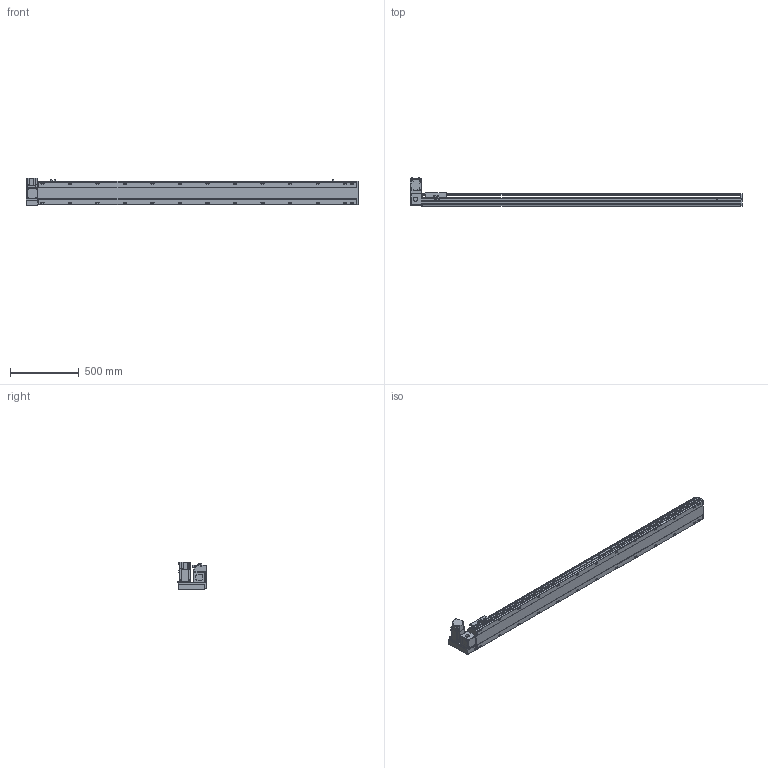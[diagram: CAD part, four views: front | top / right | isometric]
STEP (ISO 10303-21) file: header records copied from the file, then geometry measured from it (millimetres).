
FILE_DESCRIPTION( ( 'STEP AP214' ), '1' );
FILE_NAME( 'x:/temp/worker_4/temp/exporttempdir_2248_412_LlBEn/format_0/PBS170-P40-S2050-LU-T75-C1-N(0).stp', '2022-06-07T08:16:52', ( 'License CC BY-ND 4.0' ), ( 'CADENAS' ), ' ', 'PARTsolutions', ' ' );
FILE_SCHEMA( ( 'AUTOMOTIVE_DESIGN { 1 0 10303 214 1 1 1 1 }' ) );
Length unit declared in the file: millimetre
Products named in the file (7): PBS170-P40-S2050-LU-T75-C1-N(0); _PBS170-S2050()_body; _PBS170T-LU_motors; _T75-p1; _PBS170_sliser; _PBS170_plant; _PBS170_sensor
Assembly tree (8 placements, depth 2):
  PBS170-P40-S2050-LU-T75-C1-N(0)
    _PBS170-S2050()_body
    _PBS170T-LU_motors
    _T75-p1
    _PBS170_sliser
    _PBS170_plant
    _PBS170_sensor  x3
Bounding box: 2413 x 206 x 197.3 mm (x, y, z)
Volume: 18469247.2 mm3; surface area: 2343893.3 mm2
Topology: 8 solids, 8 shells, 1162 faces, 3075 edges, 2004 vertices
Faces by surface type: plane 717, cylinder 379, cone 56, sphere 8, torus 2
Full cylindrical faces by diameter (mm): 3.242 x4, 4 x2, 4.4 x4, 4.5 x6, 4.917 x4, 6 x9, 6.647 x34, 7 x2, 7.5 x4, 8 x8, 8.5 x26, 10 x4, 10.5 x26, 11 x2, 30 x2, 40 x1, 70 x1
Entity records: 42950 total; most frequent: CARTESIAN_POINT 7061, DIRECTION 5650, ORIENTED_EDGE 5328, EDGE_CURVE 2664, AXIS2_PLACEMENT_3D 1987, VERTEX_POINT 1850, LINE 1676, VECTOR 1676
